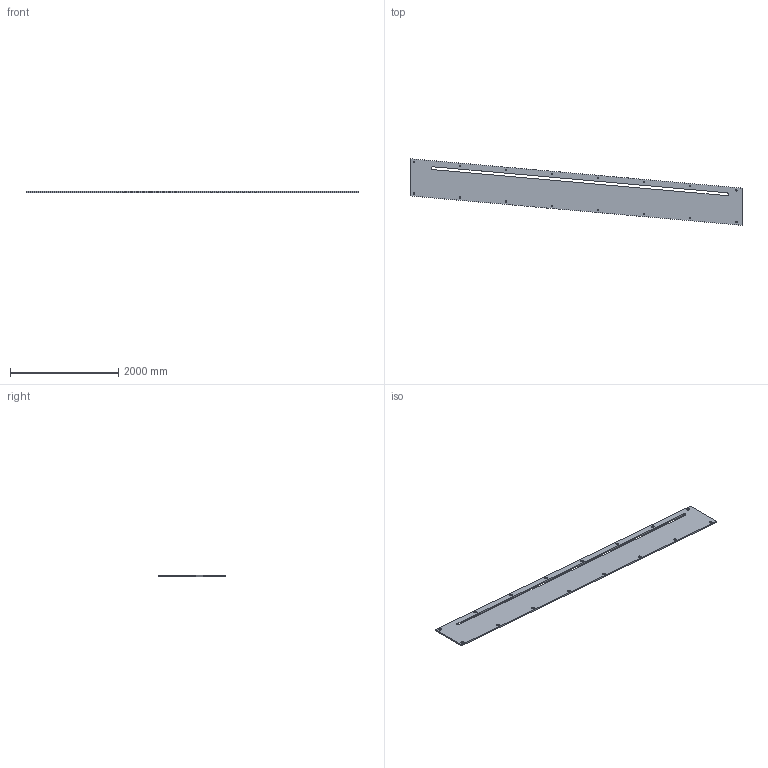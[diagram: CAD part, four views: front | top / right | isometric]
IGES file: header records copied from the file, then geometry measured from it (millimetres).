
Start section:  PTC IGES file: fr_dr_cam_trk_l.igs
Global section: file name: fr_dr_cam_trk_l.igs; native system: Pro/ENGINEER by Parametric Technology Corporation; preprocessor: 1999260; author: oshatz; organization: Unknown; date: 000922.101820; units: millimetre
Bounding box: 6125 x 1229.43 x 25.4 mm (x, y, z)
Surface area: 8508759.7 mm2 (no closed solid volume)
Topology: 0 solids, 0 shells, 90 faces, 432 edges, 432 vertices
Faces by surface type: revolution 66, bspline 24
